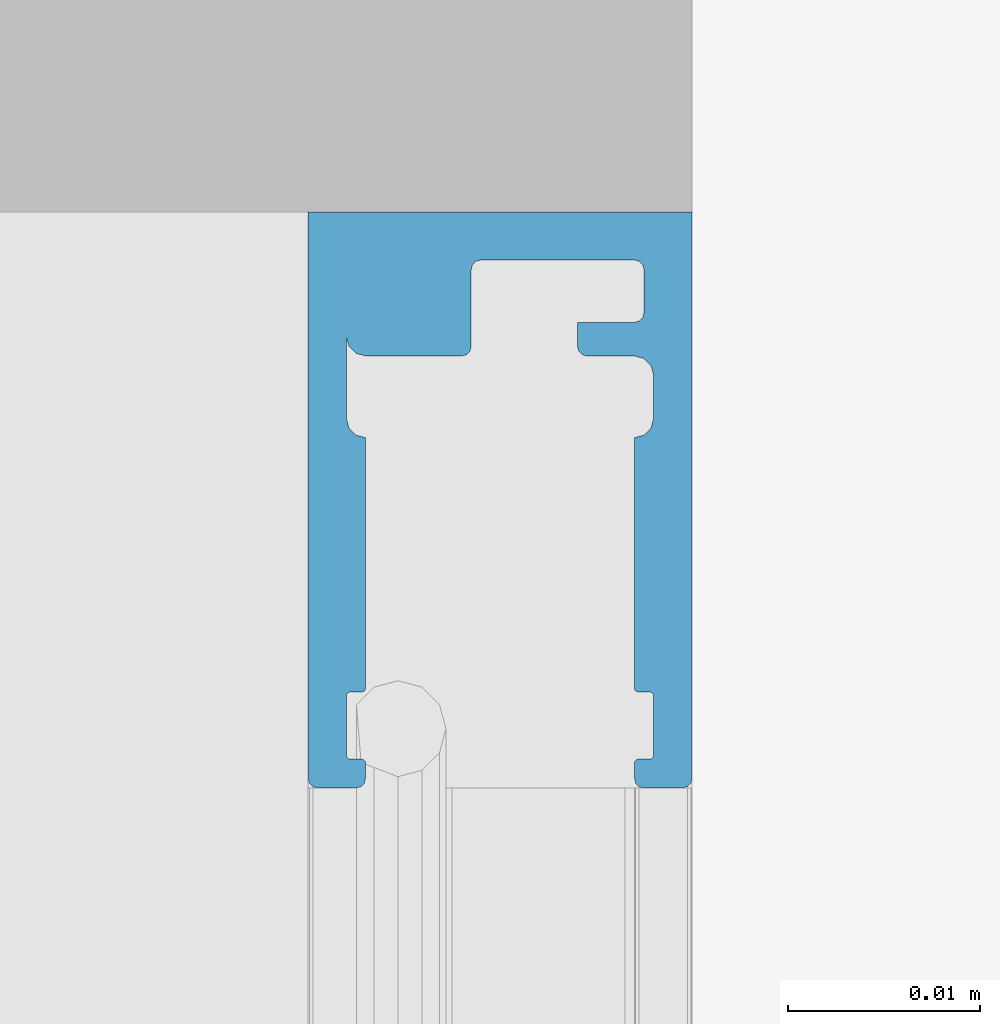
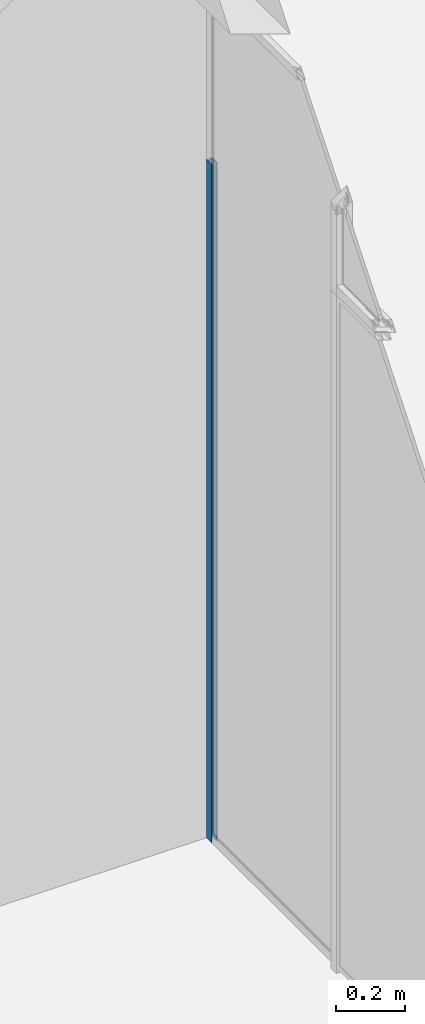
# One storey, part 96 of 387: 1 building element part, 2 elements without a shape of their own.
"""IFC2X3 building model written with IfcOpenShell, lengths in millimetres."""

from ifc_helpers import new_model, entity, si_unit, converted_unit, derived_unit, money_unit, direction, frame, origin_with_axes, place, context, subcontext, project, spatial, faceted_brep, source, transform, mapped, material, type_object, element, aggregate, save


model = new_model("IFC2X3")

# Units and contexts
model_context = context("Model", 3, precision=0.01, world=origin_with_axes(), true_north=direction((0.0, 1.0)))
body_context = subcontext(model_context, "Body", "Model", "MODEL_VIEW")
ifc_project = project(units=[si_unit("LENGTHUNIT", "METRE", prefix="MILLI"), si_unit("AREAUNIT", "SQUARE_METRE"), si_unit("VOLUMEUNIT", "CUBIC_METRE"), converted_unit("PLANEANGLEUNIT", "DEGREE", entity("IfcPlaneAngleMeasure", 0.0174532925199), si_unit("PLANEANGLEUNIT", "RADIAN"), dimensions=[0, 0, 0, 0, 0, 0, 0]), si_unit("SOLIDANGLEUNIT", "STERADIAN"), money_unit("EUR"), converted_unit("TIMEUNIT", "Year", entity("IfcTimeMeasure", 31556926.0), si_unit("TIMEUNIT", "SECOND"), dimensions=[0, 0, 1, 0, 0, 0, 0]), si_unit("MASSUNIT", "GRAM", prefix="KILO"), si_unit("THERMODYNAMICTEMPERATUREUNIT", "DEGREE_CELSIUS"), si_unit("LUMINOUSINTENSITYUNIT", "LUMEN"), si_unit("ENERGYUNIT", "JOULE", prefix="MEGA"), derived_unit("THERMALCONDUCTANCEUNIT", [(si_unit("POWERUNIT", "WATT"), 1), (si_unit("LENGTHUNIT", "METRE"), -1), (si_unit("THERMODYNAMICTEMPERATUREUNIT", "KELVIN"), -1)]), derived_unit("SPECIFICHEATCAPACITYUNIT", [(si_unit("ENERGYUNIT", "JOULE"), 1), (si_unit("MASSUNIT", "GRAM", prefix="KILO"), -1), (si_unit("THERMODYNAMICTEMPERATUREUNIT", "KELVIN"), -1)]), derived_unit("MASSDENSITYUNIT", [(si_unit("MASSUNIT", "GRAM", prefix="KILO"), 1), (si_unit("VOLUMEUNIT", "CUBIC_METRE"), -1)])], contexts=[model_context])

# Site, building, storey
site_placement = place(None, origin_with_axes())
site = spatial("IfcSite", under=ifc_project, at=site_placement, Name="Puškini 31, Narva", CompositionType="ELEMENT")
building_placement = place(site_placement, origin_with_axes())
building = spatial("IfcBuilding", under=site, at=building_placement, Name="Narva Riigigümnaasium", CompositionType="ELEMENT")
storey_placement = place(building_placement, frame((0.0, 0.0, 2640.0), z_axis=(0.0, 0.0, 1.0), x_axis=(1.0, 0.0, 0.0)))
storey = spatial("IfcBuildingStorey", under=building, at=storey_placement, Name="2.korrus +2.64", CompositionType="ELEMENT", Elevation=2640.0)

# Curtain wall, member, building element part
curtain_wall_type = type_object("IfcCurtainWallType", Name="Curtain Wall Type", PredefinedType="NOTDEFINED")
curtain_wall_placement = place(storey_placement, frame((28390.0000001, 183059.973479, -0.000112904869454), z_axis=(0.0, 0.0, 1.0), x_axis=(1.0, 0.0, 0.0)))
curtain_wall = element("IfcCurtainWall", 1, at=curtain_wall_placement, inside=storey, type_object=curtain_wall_type, Name="G-SKLF-19")
member_type = type_object("IfcMemberType", Name="30 x 10", PredefinedType="MULLION")
member_placement = place(curtain_wall_placement, frame((0.0, 1200.0, 0.0), z_axis=(0.0, 0.0, 1.0), x_axis=(0.0, 1.0, 0.0)))
member = element("IfcMember", 2, at=member_placement, type_object=member_type, Name="G-SKLF-54-raam", ObjectType="MULLION")
aggregate(curtain_wall, [member])
ifc_material = material(Name="ET-04_Alumiinium")
shared_shape = source(origin_with_axes(), body_context, "Body", "Brep", [
    faceted_brep([(0.0, 9.99999999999, 0.0), (0.0, 9.99999999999, 2400.00000477), (0.0, -9.99999999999, 2400.00000477), (0.0, -9.99999999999, 0.0), (-29.5, 10.0, 0.0), (-29.5, 10.0, 2400.00000477), (-29.75, 9.93301270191, 2400.00000477), (-29.9330127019, 9.75000000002, 2400.00000477), (-30.0, 9.5, 2400.00000477), (-30.0, 7.49999999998, 2400.00000477), (-29.9330127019, 7.24999999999, 2400.00000477), (-29.75, 7.06698729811, 2400.00000477), (-29.5, 7.00000000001, 2400.00000477), (-28.7609519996, 6.99999999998, 2400.00000477), (-28.7, 6.99999999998, 2400.00000477), (-28.6, 7.02679491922, 2400.00000477), (-28.5267949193, 7.09999999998, 2400.00000477), (-28.5, 7.19999999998, 2400.00000477), (-28.5, 7.24760028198, 2400.00000477), (-28.5, 7.76282847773, 2400.00000477), (-28.4849473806, 7.87744178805, 2400.00000477), (-28.4104265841, 7.9658128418, 2400.00000477), (-28.3, 8.00000000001, 2400.00000477), (-25.2, 8.00000000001, 2400.00000477), (-25.1, 7.97320508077, 2400.00000477), (-25.0267949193, 7.90000000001, 2400.00000477), (-25.0, 7.8, 2400.00000477), (-25.0, 7.20000000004, 2400.00000477), (-24.9732050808, 7.10000000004, 2400.00000477), (-24.9, 7.02679491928, 2400.00000477), (-24.8, 7.00000000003, 2400.00000477), (-11.7527616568, 6.99999999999, 2400.00000477), (-11.6187870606, 7.49999999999, 2400.00000477), (-11.2527616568, 7.86602540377, 2400.00000477), (-10.7527616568, 7.99999999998, 2400.00000477), (-6.49999999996, 7.99999999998, 2400.00000477), (-6.99999999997, 7.86602540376, 2400.00000477), (-7.36602540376, 7.49999999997, 2400.00000477), (-7.49999999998, 6.99999999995, 2400.00000477), (-7.49999999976, 2.00000000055, 2400.00000477), (-7.43301270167, 1.75000000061, 2400.00000477), (-7.24999999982, 1.56698729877, 2400.00000477), (-6.99999999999, 1.50000000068, 2400.00000477), (-2.99998847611, 1.50000000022, 2400.00000477), (-2.75096907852, 1.43357737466, 2400.00000477), (-2.56811176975, 1.25195735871, 2400.00000477), (-2.5, 1.00339466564, 2400.00000477), (-2.5, -6.99999999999, 2400.00000477), (-2.56698729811, -7.24999999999, 2400.00000477), (-2.75, -7.43301270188, 2400.00000477), (-3.0, -7.49999999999, 2400.00000477), (-5.24723834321, -7.49999999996, 2400.00000477), (-5.49723834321, -7.43301270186, 2400.00000477), (-5.6802510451, -7.24999999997, 2400.00000477), (-5.7472383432, -6.99999999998, 2400.00000477), (-5.74723834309, -4.03369212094, 2400.00000477), (-7.0, -4.03369212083, 2400.00000477), (-7.24999999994, -4.10067941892, 2400.00000477), (-7.43301270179, -4.28369212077, 2400.00000477), (-7.49999999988, -4.5336921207, 2400.00000477), (-7.49999999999, -7.00000000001, 2400.00000477), (-7.63397459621, -7.50000000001, 2400.00000477), (-7.99999999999, -7.86602540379, 2400.00000477), (-8.49999999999, -8.00000000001, 2400.00000477), (-10.7527616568, -7.99999999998, 2400.00000477), (-11.2527616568, -7.86602540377, 2400.00000477), (-11.6187870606, -7.49999999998, 2400.00000477), (-11.7527616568, -6.99999999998, 2400.00000477), (-24.8, -7.00000000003, 2400.00000477), (-24.9, -7.02679491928, 2400.00000477), (-24.9732050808, -7.10000000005, 2400.00000477), (-25.0, -7.20000000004, 2400.00000477), (-25.0, -7.79999999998, 2400.00000477), (-25.0267949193, -7.89999999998, 2400.00000477), (-25.1, -7.97320508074, 2400.00000477), (-25.2, -7.99999999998, 2400.00000477), (-28.3, -7.99999999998, 2400.00000477), (-28.4, -7.97320508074, 2400.00000477), (-28.4732050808, -7.89999999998, 2400.00000477), (-28.5, -7.79999999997, 2400.00000477), (-28.5, -7.19999999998, 2400.00000477), (-28.5267949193, -7.09999999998, 2400.00000477), (-28.6, -7.02679491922, 2400.00000477), (-28.7, -6.99999999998, 2400.00000477), (-29.5, -6.99999999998, 2400.00000477), (-29.75, -7.06698729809, 2400.00000477), (-29.9330127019, -7.24999999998, 2400.00000477), (-30.0, -7.49999999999, 2400.00000477), (-30.0, -9.5, 2400.00000477), (-29.9224245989, -9.76651288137, 2400.00000477), (-29.7157683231, -9.95182408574, 2400.00000477), (-29.4424074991, -9.99999999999, 2400.00000477), (-29.4424074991, -9.99999999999, 0.0), (-29.7157683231, -9.95182408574, 0.0), (-29.9224245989, -9.76651288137, 0.0), (-30.0, -9.5, 0.0), (-30.0, -7.49999999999, 0.0), (-29.9330127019, -7.24999999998, 0.0), (-29.75, -7.06698729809, 0.0), (-29.5, -6.99999999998, 0.0), (-28.7, -6.99999999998, 0.0), (-28.6, -7.02679491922, 0.0), (-28.5267949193, -7.09999999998, 0.0), (-28.5, -7.19999999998, 0.0), (-28.5, -7.79999999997, 0.0), (-28.4732050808, -7.89999999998, 0.0), (-28.4, -7.97320508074, 0.0), (-28.3, -7.99999999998, 0.0), (-25.2, -7.99999999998, 0.0), (-25.1, -7.97320508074, 0.0), (-25.0267949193, -7.89999999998, 0.0), (-25.0, -7.79999999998, 0.0), (-25.0, -7.20000000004, 0.0), (-24.9732050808, -7.10000000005, 0.0), (-24.9, -7.02679491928, 0.0), (-24.8, -7.00000000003, 0.0), (-11.7527616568, -6.99999999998, 0.0), (-11.6187870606, -7.49999999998, 0.0), (-11.2527616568, -7.86602540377, 0.0), (-10.7527616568, -7.99999999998, 0.0), (-8.49999999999, -8.00000000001, 0.0), (-7.99999999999, -7.86602540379, 0.0), (-7.63397459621, -7.50000000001, 0.0), (-7.49999999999, -7.00000000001, 0.0), (-7.49999999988, -4.5336921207, 0.0), (-7.43301270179, -4.28369212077, 0.0), (-7.24999999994, -4.10067941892, 0.0), (-7.0, -4.03369212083, 0.0), (-5.74723834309, -4.03369212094, 0.0), (-5.7472383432, -6.99999999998, 0.0), (-5.6802510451, -7.24999999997, 0.0), (-5.49723834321, -7.43301270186, 0.0), (-5.24723834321, -7.49999999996, 0.0), (-3.0, -7.49999999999, 0.0), (-2.75, -7.43301270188, 0.0), (-2.56698729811, -7.24999999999, 0.0), (-2.5, -6.99999999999, 0.0), (-2.5, 1.00339466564, 0.0), (-2.56811176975, 1.25195735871, 0.0), (-2.75096907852, 1.43357737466, 0.0), (-2.99998847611, 1.50000000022, 0.0), (-6.99999999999, 1.50000000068, 0.0), (-7.24999999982, 1.56698729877, 0.0), (-7.43301270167, 1.75000000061, 0.0), (-7.49999999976, 2.00000000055, 0.0), (-7.49999999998, 6.99999999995, 0.0), (-7.36602540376, 7.49999999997, 0.0), (-6.99999999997, 7.86602540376, 0.0), (-6.49999999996, 7.99999999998, 0.0), (-10.7527616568, 7.99999999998, 0.0), (-11.2527616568, 7.86602540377, 0.0), (-11.6187870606, 7.49999999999, 0.0), (-11.7527616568, 6.99999999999, 0.0), (-24.8, 7.00000000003, 0.0), (-24.9, 7.02679491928, 0.0), (-24.9732050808, 7.10000000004, 0.0), (-25.0, 7.20000000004, 0.0), (-25.0, 7.8, 0.0), (-25.0267949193, 7.90000000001, 0.0), (-25.1, 7.97320508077, 0.0), (-25.2, 8.00000000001, 0.0), (-28.3, 8.00000000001, 0.0), (-28.4104265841, 7.9658128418, 0.0), (-28.4849473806, 7.87744178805, 0.0), (-28.5, 7.76282847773, 0.0), (-28.5, 7.24760028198, 0.0), (-28.5, 7.19999999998, 0.0), (-28.5267949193, 7.09999999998, 0.0), (-28.6, 7.02679491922, 0.0), (-28.7, 6.99999999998, 0.0), (-28.7609519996, 6.99999999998, 0.0), (-29.5, 7.00000000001, 0.0), (-29.75, 7.06698729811, 0.0), (-29.9330127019, 7.24999999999, 0.0), (-30.0, 7.49999999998, 0.0), (-30.0, 9.5, 0.0), (-29.9330127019, 9.75000000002, 0.0), (-29.75, 9.93301270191, 0.0)], [[[0, 1, 2, 3]], [[4, 5, 1, 0]], [[1, 5, 6, 7, 8, 9, 10, 11, 12, 13, 14, 15, 16, 17, 18, 19, 20, 21, 22, 23, 24, 25, 26, 27, 28, 29, 30, 31, 32, 33, 34, 35, 36, 37, 38, 39, 40, 41, 42, 43, 44, 45, 46, 47, 48, 49, 50, 51, 52, 53, 54, 55, 56, 57, 58, 59, 60, 61, 62, 63, 64, 65, 66, 67, 68, 69, 70, 71, 72, 73, 74, 75, 76, 77, 78, 79, 80, 81, 82, 83, 84, 85, 86, 87, 88, 89, 90, 91, 2]], [[3, 2, 91, 92]], [[0, 3, 92, 93, 94, 95, 96, 97, 98, 99, 100, 101, 102, 103, 104, 105, 106, 107, 108, 109, 110, 111, 112, 113, 114, 115, 116, 117, 118, 119, 120, 121, 122, 123, 124, 125, 126, 127, 128, 129, 130, 131, 132, 133, 134, 135, 136, 137, 138, 139, 140, 141, 142, 143, 144, 145, 146, 147, 148, 149, 150, 151, 152, 153, 154, 155, 156, 157, 158, 159, 160, 161, 162, 163, 164, 165, 166, 167, 168, 169, 170, 171, 172, 173, 174, 175, 176, 177, 4]], [[177, 6, 5, 4]], [[176, 7, 6, 177]], [[175, 8, 7, 176]], [[174, 9, 8, 175]], [[173, 10, 9, 174]], [[172, 11, 10, 173]], [[171, 12, 11, 172]], [[170, 13, 12, 171]], [[169, 14, 13, 170]], [[168, 15, 14, 169]], [[167, 16, 15, 168]], [[166, 17, 16, 167]], [[165, 18, 17, 166]], [[164, 19, 18, 165]], [[163, 20, 19, 164]], [[162, 21, 20, 163]], [[161, 22, 21, 162]], [[160, 23, 22, 161]], [[159, 24, 23, 160]], [[158, 25, 24, 159]], [[157, 26, 25, 158]], [[156, 27, 26, 157]], [[155, 28, 27, 156]], [[154, 29, 28, 155]], [[153, 30, 29, 154]], [[152, 31, 30, 153]], [[151, 32, 31, 152]], [[150, 33, 32, 151]], [[149, 34, 33, 150]], [[148, 35, 34, 149]], [[147, 36, 35, 148]], [[146, 37, 36, 147]], [[145, 38, 37, 146]], [[144, 39, 38, 145]], [[143, 40, 39, 144]], [[142, 41, 40, 143]], [[141, 42, 41, 142]], [[140, 43, 42, 141]], [[139, 44, 43, 140]], [[138, 45, 44, 139]], [[137, 46, 45, 138]], [[136, 47, 46, 137]], [[135, 48, 47, 136]], [[134, 49, 48, 135]], [[133, 50, 49, 134]], [[132, 51, 50, 133]], [[131, 52, 51, 132]], [[130, 53, 52, 131]], [[129, 54, 53, 130]], [[128, 55, 54, 129]], [[127, 56, 55, 128]], [[126, 57, 56, 127]], [[125, 58, 57, 126]], [[124, 59, 58, 125]], [[123, 60, 59, 124]], [[122, 61, 60, 123]], [[121, 62, 61, 122]], [[120, 63, 62, 121]], [[119, 64, 63, 120]], [[118, 65, 64, 119]], [[117, 66, 65, 118]], [[116, 67, 66, 117]], [[115, 68, 67, 116]], [[114, 69, 68, 115]], [[113, 70, 69, 114]], [[112, 71, 70, 113]], [[111, 72, 71, 112]], [[110, 73, 72, 111]], [[109, 74, 73, 110]], [[108, 75, 74, 109]], [[107, 76, 75, 108]], [[106, 77, 76, 107]], [[105, 78, 77, 106]], [[104, 79, 78, 105]], [[103, 80, 79, 104]], [[102, 81, 80, 103]], [[101, 82, 81, 102]], [[100, 83, 82, 101]], [[99, 84, 83, 100]], [[98, 85, 84, 99]], [[97, 86, 85, 98]], [[96, 87, 86, 97]], [[95, 88, 87, 96]], [[94, 89, 88, 95]], [[93, 90, 89, 94]], [[92, 91, 90, 93]]]),
])
building_element_part_placement = place(member_placement, origin_with_axes())
building_element_part = element("IfcBuildingElementPart", 3, at=building_element_part_placement, material=ifc_material, Name="ET-04_Alumiinium", context=body_context, shape_type="MappedRepresentation", body=[
    mapped(shared_shape, transform((0.0, 0.0, 0.0))),
])
aggregate(member, [building_element_part])

save(model, "model.ifc")
